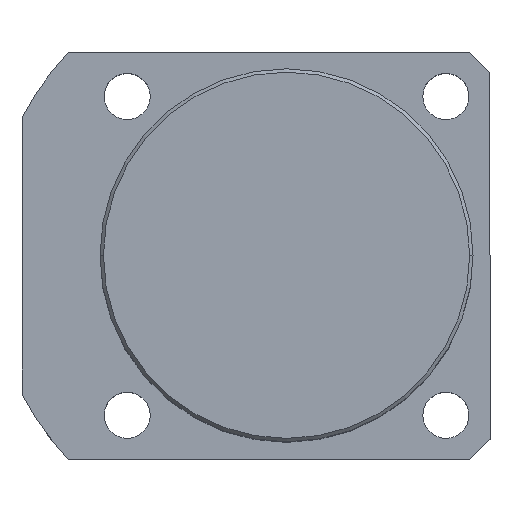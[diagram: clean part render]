
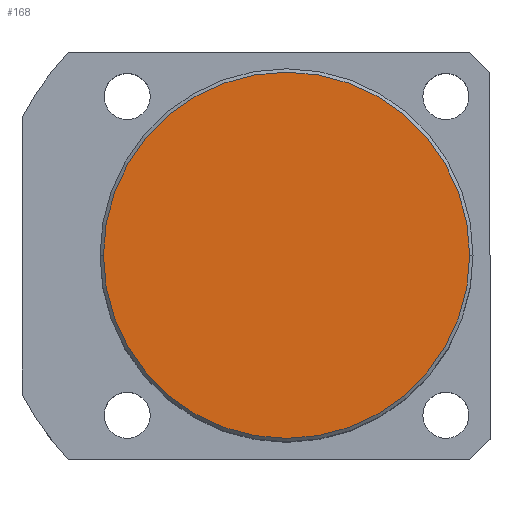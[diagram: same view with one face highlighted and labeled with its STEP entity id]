
A CAD part, top view. The second image highlights one B-rep face of the part: STEP entity #168.
In plain terms, the highlighted planar face has unit normal (0, 0, 1).
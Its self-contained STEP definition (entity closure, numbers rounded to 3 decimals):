
#28 = CARTESIAN_POINT ( 'NONE',  ( 27., 0., 60. ) ) ;
#77 = CARTESIAN_POINT ( 'NONE',  ( 0., 0., 60. ) ) ;
#107 = CARTESIAN_POINT ( 'NONE',  ( -27., 0., 60. ) ) ;
#125 = EDGE_CURVE ( 'NONE', #1263, #607, #714, .T. ) ;
#135 = FACE_OUTER_BOUND ( 'NONE', #1348, .T. ) ;
#168 = ADVANCED_FACE ( 'NONE', ( #135 ), #372, .T. ) ;
#282 = DIRECTION ( 'NONE',  ( 0., 0., 1. ) ) ;
#349 = DIRECTION ( 'NONE',  ( 0., 0., 1. ) ) ;
#372 = PLANE ( 'NONE',  #1253 ) ;
#502 = CARTESIAN_POINT ( 'NONE',  ( 0., 0., 60. ) ) ;
#542 = CIRCLE ( 'NONE', #748, 27. ) ;
#578 = DIRECTION ( 'NONE',  ( 1., 0., 0. ) ) ;
#586 = ORIENTED_EDGE ( 'NONE', *, *, #1698, .T. ) ;
#607 = VERTEX_POINT ( 'NONE', #28 ) ;
#714 = CIRCLE ( 'NONE', #1181, 27. ) ;
#748 = AXIS2_PLACEMENT_3D ( 'NONE', #1533, #282, #578 ) ;
#753 = DIRECTION ( 'NONE',  ( 1., 0., 0. ) ) ;
#918 = DIRECTION ( 'NONE',  ( 1., 0., 0. ) ) ;
#965 = ORIENTED_EDGE ( 'NONE', *, *, #125, .T. ) ;
#1060 = DIRECTION ( 'NONE',  ( 0., 0., 1. ) ) ;
#1181 = AXIS2_PLACEMENT_3D ( 'NONE', #502, #349, #753 ) ;
#1253 = AXIS2_PLACEMENT_3D ( 'NONE', #77, #1060, #918 ) ;
#1263 = VERTEX_POINT ( 'NONE', #107 ) ;
#1348 = EDGE_LOOP ( 'NONE', ( #965, #586 ) ) ;
#1533 = CARTESIAN_POINT ( 'NONE',  ( 0., 0., 60. ) ) ;
#1698 = EDGE_CURVE ( 'NONE', #607, #1263, #542, .T. ) ;
